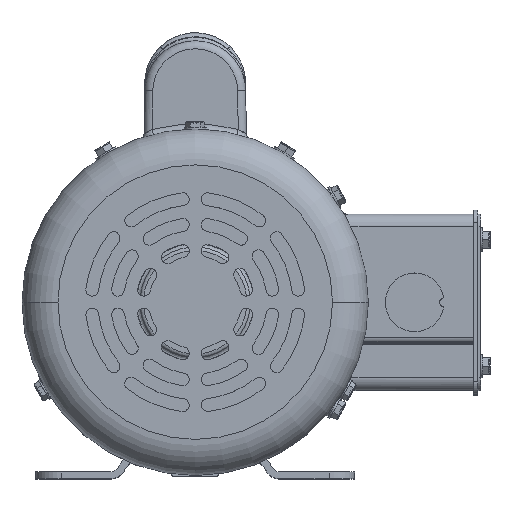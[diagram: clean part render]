
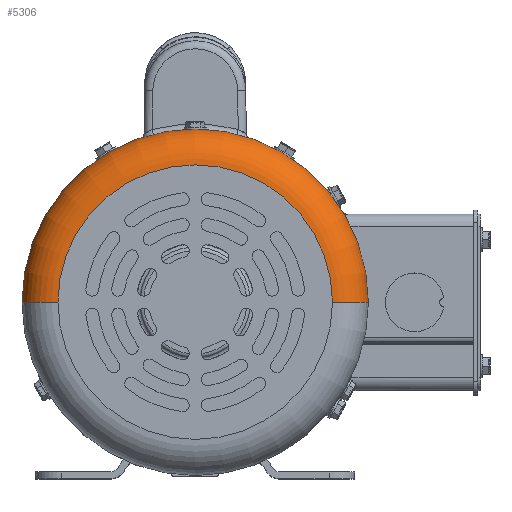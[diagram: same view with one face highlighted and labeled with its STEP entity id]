
A CAD part, top view. The second image highlights one B-rep face of the part: STEP entity #5306.
In plain terms, the highlighted toroidal (fillet/blend) face has major radius 51.943 mm and minor radius 13.589 mm.
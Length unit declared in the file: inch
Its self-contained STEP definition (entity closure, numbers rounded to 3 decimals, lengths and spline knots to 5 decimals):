
#1079 = AXIS2_PLACEMENT_3D ( 'NONE', #47442, #117500, #57550 ) ;
#5306 = ADVANCED_FACE ( 'NONE', ( #68976 ), #95655, .T. ) ;
#7466 = DIRECTION ( 'NONE',  ( 1., 0., 0. ) ) ;
#8617 = CARTESIAN_POINT ( 'NONE',  ( 0., 0., -0.21794 ) ) ;
#10776 = DIRECTION ( 'NONE',  ( 0., 0., 1. ) ) ;
#32548 = CARTESIAN_POINT ( 'NONE',  ( -2.58, 0., -0.21794 ) ) ;
#33015 = CARTESIAN_POINT ( 'NONE',  ( 2.045, 0., -0.21794 ) ) ;
#35247 = DIRECTION ( 'NONE',  ( 0., 0., -1. ) ) ;
#36339 = ORIENTED_EDGE ( 'NONE', *, *, #106722, .T. ) ;
#39654 = AXIS2_PLACEMENT_3D ( 'NONE', #95272, #35247, #105320 ) ;
#41603 = VERTEX_POINT ( 'NONE', #32548 ) ;
#43076 = DIRECTION ( 'NONE',  ( 0., 0., -1. ) ) ;
#47442 = CARTESIAN_POINT ( 'NONE',  ( -2.045, 0., -0.21794 ) ) ;
#49076 = VERTEX_POINT ( 'NONE', #81255 ) ;
#56025 = CIRCLE ( 'NONE', #1079, 0.535 ) ;
#57550 = DIRECTION ( 'NONE',  ( -1., 0., 0. ) ) ;
#57783 = DIRECTION ( 'NONE',  ( 0., 0., 1. ) ) ;
#59061 = AXIS2_PLACEMENT_3D ( 'NONE', #8617, #10776, #7466 ) ;
#63390 = EDGE_CURVE ( 'NONE', #41603, #49076, #121703, .T. ) ;
#68976 = FACE_OUTER_BOUND ( 'NONE', #109750, .T. ) ;
#71518 = CARTESIAN_POINT ( 'NONE',  ( 2.045, 0., 0.31706 ) ) ;
#75432 = CIRCLE ( 'NONE', #113911, 2.045 ) ;
#75666 = AXIS2_PLACEMENT_3D ( 'NONE', #33015, #103118, #43076 ) ;
#81255 = CARTESIAN_POINT ( 'NONE',  ( 2.58, 0., -0.21794 ) ) ;
#95272 = CARTESIAN_POINT ( 'NONE',  ( 0., 0., -0.21794 ) ) ;
#95655 = TOROIDAL_SURFACE ( 'NONE', #59061, 2.045, 0.535 ) ;
#100298 = EDGE_CURVE ( 'NONE', #103694, #108415, #75432, .T. ) ;
#103118 = DIRECTION ( 'NONE',  ( 0., -1., 0. ) ) ;
#103694 = VERTEX_POINT ( 'NONE', #71518 ) ;
#105320 = DIRECTION ( 'NONE',  ( 1., 0., 0. ) ) ;
#105377 = CIRCLE ( 'NONE', #75666, 0.535 ) ;
#106722 = EDGE_CURVE ( 'NONE', #41603, #108415, #56025, .T. ) ;
#108415 = VERTEX_POINT ( 'NONE', #128502 ) ;
#109750 = EDGE_LOOP ( 'NONE', ( #118573, #36339, #113809, #119631 ) ) ;
#113000 = EDGE_CURVE ( 'NONE', #49076, #103694, #105377, .T. ) ;
#113809 = ORIENTED_EDGE ( 'NONE', *, *, #100298, .F. ) ;
#113911 = AXIS2_PLACEMENT_3D ( 'NONE', #117717, #57783, #127836 ) ;
#117500 = DIRECTION ( 'NONE',  ( 0., 1., 0. ) ) ;
#117717 = CARTESIAN_POINT ( 'NONE',  ( 0., 0., 0.31706 ) ) ;
#118573 = ORIENTED_EDGE ( 'NONE', *, *, #63390, .F. ) ;
#119631 = ORIENTED_EDGE ( 'NONE', *, *, #113000, .F. ) ;
#121703 = CIRCLE ( 'NONE', #39654, 2.58 ) ;
#127836 = DIRECTION ( 'NONE',  ( 1., 0., 0. ) ) ;
#128502 = CARTESIAN_POINT ( 'NONE',  ( -2.045, 0., 0.31706 ) ) ;
